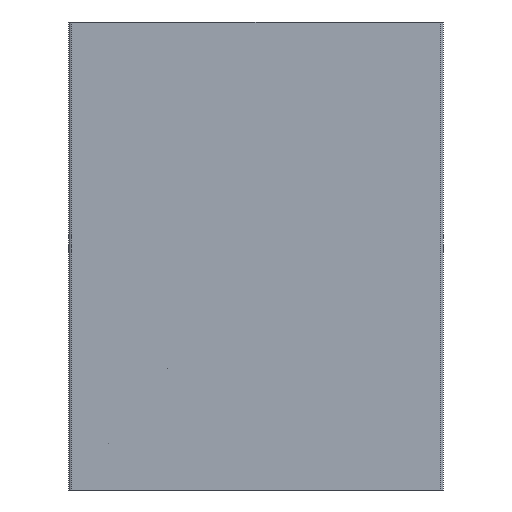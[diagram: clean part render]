
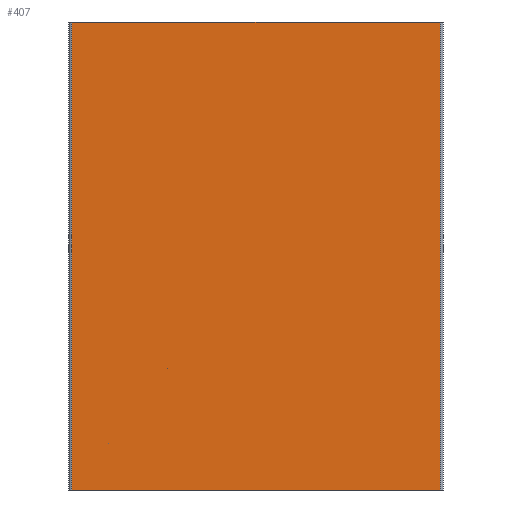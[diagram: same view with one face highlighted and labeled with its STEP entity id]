
A CAD part, front view. The second image highlights one B-rep face of the part: STEP entity #407.
In plain terms, the highlighted planar face has unit normal (0, -1, 0).
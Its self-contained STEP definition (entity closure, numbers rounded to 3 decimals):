
#1 = EDGE_CURVE ( 'NONE', #479, #299, #571, .T. ) ;
#205 = VERTEX_POINT ( 'NONE', #1736 ) ;
#227 = EDGE_CURVE ( 'NONE', #2321, #205, #1832, .T. ) ;
#299 = VERTEX_POINT ( 'NONE', #2103 ) ;
#407 = ADVANCED_FACE ( 'NONE', ( #1477 ), #1480, .F. ) ;
#479 = VERTEX_POINT ( 'NONE', #1728 ) ;
#490 = ORIENTED_EDGE ( 'NONE', *, *, #227, .T. ) ;
#513 = ORIENTED_EDGE ( 'NONE', *, *, #539, .F. ) ;
#539 = EDGE_CURVE ( 'NONE', #2321, #479, #668, .T. ) ;
#553 = EDGE_CURVE ( 'NONE', #205, #299, #741, .T. ) ;
#571 = LINE ( 'NONE', #572, #573 ) ;
#572 = CARTESIAN_POINT ( 'NONE',  ( 59., 0., 150. ) ) ;
#573 = VECTOR ( 'NONE', #574, 1000. ) ;
#574 = DIRECTION ( 'NONE',  ( 0., 0., -1. ) ) ;
#608 = ORIENTED_EDGE ( 'NONE', *, *, #553, .T. ) ;
#668 = LINE ( 'NONE', #669, #670 ) ;
#669 = CARTESIAN_POINT ( 'NONE',  ( 59., 0., 150. ) ) ;
#670 = VECTOR ( 'NONE', #671, 1000. ) ;
#671 = DIRECTION ( 'NONE',  ( 1., 0., 0. ) ) ;
#741 = LINE ( 'NONE', #742, #743 ) ;
#742 = CARTESIAN_POINT ( 'NONE',  ( 59., 0., 0. ) ) ;
#743 = VECTOR ( 'NONE', #744, 1000. ) ;
#744 = DIRECTION ( 'NONE',  ( 1., 0., 0. ) ) ;
#905 = ORIENTED_EDGE ( 'NONE', *, *, #1, .F. ) ;
#1477 = FACE_OUTER_BOUND ( 'NONE', #2343, .T. ) ;
#1480 = PLANE ( 'NONE',  #1481 ) ;
#1481 = AXIS2_PLACEMENT_3D ( 'NONE', #1482, #1483, #1484 ) ;
#1482 = CARTESIAN_POINT ( 'NONE',  ( 59., 0., 150. ) ) ;
#1483 = DIRECTION ( 'NONE',  ( 0., 1., 0. ) ) ;
#1484 = DIRECTION ( 'NONE',  ( 0., 0., 1. ) ) ;
#1728 = CARTESIAN_POINT ( 'NONE',  ( 59., 0., 150. ) ) ;
#1736 = CARTESIAN_POINT ( 'NONE',  ( -59., 0., 0. ) ) ;
#1832 = LINE ( 'NONE', #1833, #1834 ) ;
#1833 = CARTESIAN_POINT ( 'NONE',  ( -59., 0., 150. ) ) ;
#1834 = VECTOR ( 'NONE', #1835, 1000. ) ;
#1835 = DIRECTION ( 'NONE',  ( 0., 0., -1. ) ) ;
#2066 = CARTESIAN_POINT ( 'NONE',  ( -59., 0., 150. ) ) ;
#2103 = CARTESIAN_POINT ( 'NONE',  ( 59., 0., 0. ) ) ;
#2321 = VERTEX_POINT ( 'NONE', #2066 ) ;
#2343 = EDGE_LOOP ( 'NONE', ( #608, #905, #513, #490 ) ) ;
